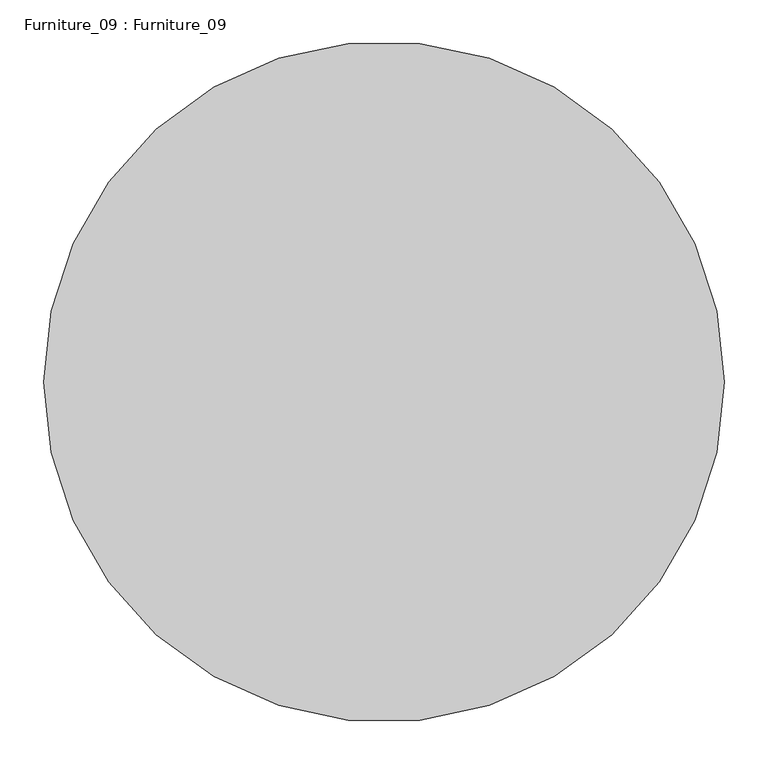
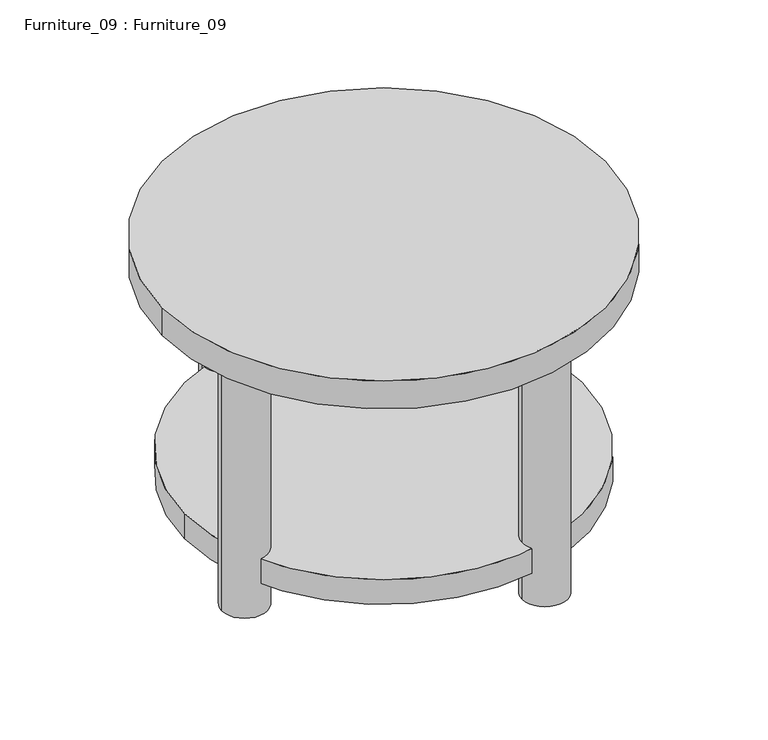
"""IFC4 building model written with IfcOpenShell, lengths in millimetres: furniture geometry, Furniture_09 : Furniture_09."""

from ifc_helpers import new_model, si_unit, point, frame, frame_2d, origin, origin_with_axes, origin_2d, place, context, project, spatial, circle_curve, trimmed, segment, composite_curve, outline, extrude, source, transform, mapped, element, save


def furniture_09_furniture_09_7a5d8bf4(model_context):
    return source(origin(), model_context, "Body", "SweptSolid", [
        extrude(outline(composite_curve([segment(trimmed(circle_curve(frame_2d((-89.0218953, 329.4510389)), 40.0), [point((-129.0218953, 329.4510389))], [point((-49.0218953, 329.4510389))], False, "CARTESIAN"), True, "CONTINUOUS"), segment(trimmed(circle_curve(frame_2d((-89.0218953, 329.4510389)), 40.0), [point((-49.0218953, 329.4510389))], [point((-129.0218953, 329.4510389))], False, "CARTESIAN"), True, "CONTINUOUS")], self_intersect=False)), origin_with_axes(), (0.0, 0.0, 1.0), 451.4177947),
        extrude(outline(composite_curve([segment(trimmed(circle_curve(frame_2d((-314.8286987, -121.1289919)), 40.0), [point((-354.8286987, -121.1289919))], [point((-274.8286987, -121.1289919))], False, "CARTESIAN"), True, "CONTINUOUS"), segment(trimmed(circle_curve(frame_2d((-314.8286987, -121.1289919)), 40.0), [point((-274.8286987, -121.1289919))], [point((-354.8286987, -121.1289919))], False, "CARTESIAN"), True, "CONTINUOUS")], self_intersect=False)), origin_with_axes(), (0.0, 0.0, 1.0), 451.4177947),
        extrude(outline(composite_curve([segment(trimmed(circle_curve(frame_2d((97.2891031, -322.8676168)), 40.0), [point((57.2891031, -322.8676168))], [point((137.2891031, -322.8676168))], False, "CARTESIAN"), True, "CONTINUOUS"), segment(trimmed(circle_curve(frame_2d((97.2891031, -322.8676168)), 40.0), [point((137.2891031, -322.8676168))], [point((57.2891031, -322.8676168))], False, "CARTESIAN"), True, "CONTINUOUS")], self_intersect=False)), origin_with_axes(), (0.0, 0.0, 1.0), 451.4177947),
        extrude(outline(composite_curve([segment(trimmed(circle_curve(frame_2d((322.6354532, 100.9472278)), 40.0), [point((282.6354532, 100.9472278))], [point((362.6354532, 100.9472278))], False, "CARTESIAN"), True, "CONTINUOUS"), segment(trimmed(circle_curve(frame_2d((322.6354532, 100.9472278)), 40.0), [point((362.6354532, 100.9472278))], [point((282.6354532, 100.9472278))], False, "CARTESIAN"), True, "CONTINUOUS")], self_intersect=False)), origin_with_axes(), (0.0, 0.0, 1.0), 451.4177947),
        extrude(outline(composite_curve([segment(trimmed(circle_curve(origin_2d(), 350.0), [point((-350.0, 0.0))], [point((350.0, 0.0))], False, "CARTESIAN"), True, "CONTINUOUS"), segment(trimmed(circle_curve(origin_2d(), 350.0), [point((350.0, 0.0))], [point((-350.0, 0.0))], False, "CARTESIAN"), True, "CONTINUOUS")], self_intersect=False)), frame((0.0, 0.0, 59.1489695), z_axis=(0.0, 0.0, 1.0), x_axis=(1.0, 0.0, 0.0)), (0.0, 0.0, 1.0), 46.1439482),
        extrude(outline(composite_curve([segment(trimmed(circle_curve(origin_2d(), 390.0), [point((-390.0, 0.0))], [point((390.0, 0.0))], False, "CARTESIAN"), True, "CONTINUOUS"), segment(trimmed(circle_curve(origin_2d(), 390.0), [point((390.0, 0.0))], [point((-390.0, 0.0))], False, "CARTESIAN"), True, "CONTINUOUS")], self_intersect=False)), frame((0.0, 0.0, 451.4177947), z_axis=(0.0, 0.0, 1.0), x_axis=(1.0, 0.0, 0.0)), (0.0, 0.0, 1.0), 51.9245301),
    ])


if __name__ == "__main__":
    model = new_model("IFC4")
    model_context = context("Model", 3, world=origin())
    ifc_project = project(units=[si_unit("LENGTHUNIT", "METRE", prefix="MILLI")], contexts=[model_context])
    site = spatial("IfcSite", under=ifc_project)
    building = spatial("IfcBuilding", under=site)
    placement = place(None, origin())
    furniture_09_furniture_09_shape = furniture_09_furniture_09_7a5d8bf4(model_context)
    element("IfcFurniture", 1, ObjectType="Furniture_09 : Furniture_09", at=placement, inside=building, context=model_context, shape_type="MappedRepresentation", body=[
        mapped(furniture_09_furniture_09_shape, transform((0.0, 0.0, 0.0), x_axis=(1.0, 0.0, 0.0), y_axis=(0.0, 1.0, 0.0), z_axis=(0.0, 0.0, 1.0))),
    ])
    save(model, "model.ifc")
